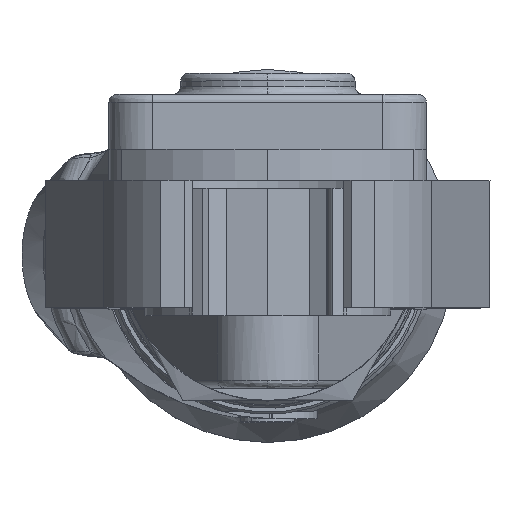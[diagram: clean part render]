
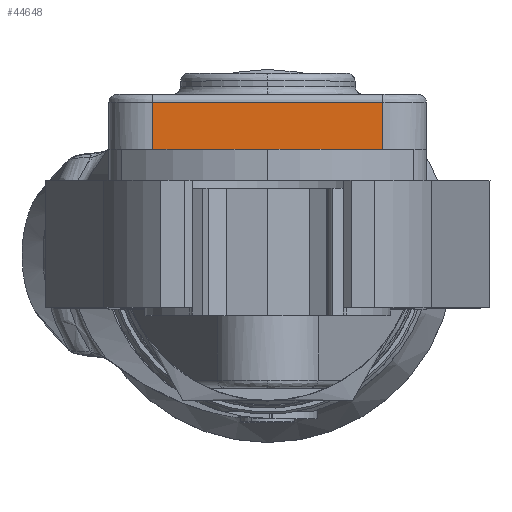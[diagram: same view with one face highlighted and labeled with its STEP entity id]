
A CAD part, top view. The second image highlights one B-rep face of the part: STEP entity #44648.
In plain terms, the highlighted planar face has unit normal (0, 0, 1).
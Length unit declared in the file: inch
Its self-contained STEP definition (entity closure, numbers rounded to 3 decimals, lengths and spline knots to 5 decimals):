
#1265 = DIRECTION ( 'NONE',  ( 0., -1., 0. ) ) ;
#2336 = DIRECTION ( 'NONE',  ( 0., -1., 0. ) ) ;
#3065 = VERTEX_POINT ( 'NONE', #42305 ) ;
#9855 = LINE ( 'NONE', #38504, #69946 ) ;
#13377 = EDGE_CURVE ( 'NONE', #73904, #34443, #73883, .T. ) ;
#14596 = VECTOR ( 'NONE', #58873, 39.37008 ) ;
#15486 = LINE ( 'NONE', #58965, #14596 ) ;
#17236 = ORIENTED_EDGE ( 'NONE', *, *, #13377, .F. ) ;
#17433 = EDGE_CURVE ( 'NONE', #3065, #57672, #40880, .T. ) ;
#17864 = ORIENTED_EDGE ( 'NONE', *, *, #21397, .F. ) ;
#20851 = CARTESIAN_POINT ( 'NONE',  ( -0.57087, 0.74763, 2.8638 ) ) ;
#21397 = EDGE_CURVE ( 'NONE', #57672, #73904, #15486, .T. ) ;
#30029 = CARTESIAN_POINT ( 'NONE',  ( 0.57087, 0.787, 2.8638 ) ) ;
#34443 = VERTEX_POINT ( 'NONE', #20851 ) ;
#35520 = ORIENTED_EDGE ( 'NONE', *, *, #37785, .F. ) ;
#36524 = ORIENTED_EDGE ( 'NONE', *, *, #17433, .F. ) ;
#37785 = EDGE_CURVE ( 'NONE', #34443, #3065, #9855, .T. ) ;
#37866 = DIRECTION ( 'NONE',  ( 0., 0., -1. ) ) ;
#38504 = CARTESIAN_POINT ( 'NONE',  ( 0.57087, 0.74763, 2.8638 ) ) ;
#40880 = LINE ( 'NONE', #30029, #56254 ) ;
#42305 = CARTESIAN_POINT ( 'NONE',  ( 0.57087, 0.74763, 2.8638 ) ) ;
#44648 = ADVANCED_FACE ( 'NONE', ( #69752 ), #70888, .F. ) ;
#48187 = AXIS2_PLACEMENT_3D ( 'NONE', #72389, #37866, #2336 ) ;
#53151 = EDGE_LOOP ( 'NONE', ( #35520, #17236, #17864, #36524 ) ) ;
#53462 = CARTESIAN_POINT ( 'NONE',  ( -0.57087, 0.787, 2.8638 ) ) ;
#53550 = DIRECTION ( 'NONE',  ( 0., 1., 0. ) ) ;
#56131 = DIRECTION ( 'NONE',  ( 1., 0., 0. ) ) ;
#56254 = VECTOR ( 'NONE', #1265, 39.37008 ) ;
#57672 = VERTEX_POINT ( 'NONE', #66138 ) ;
#58873 = DIRECTION ( 'NONE',  ( -1., 0., 0. ) ) ;
#58965 = CARTESIAN_POINT ( 'NONE',  ( 0.57087, 0.46337, 2.8638 ) ) ;
#66138 = CARTESIAN_POINT ( 'NONE',  ( 0.57087, 0.46337, 2.8638 ) ) ;
#67362 = CARTESIAN_POINT ( 'NONE',  ( -0.57087, 0.46337, 2.8638 ) ) ;
#69752 = FACE_OUTER_BOUND ( 'NONE', #53151, .T. ) ;
#69946 = VECTOR ( 'NONE', #56131, 39.37008 ) ;
#70888 = PLANE ( 'NONE',  #48187 ) ;
#72389 = CARTESIAN_POINT ( 'NONE',  ( 0.57087, 0.787, 2.8638 ) ) ;
#73602 = VECTOR ( 'NONE', #53550, 39.37008 ) ;
#73883 = LINE ( 'NONE', #53462, #73602 ) ;
#73904 = VERTEX_POINT ( 'NONE', #67362 ) ;
